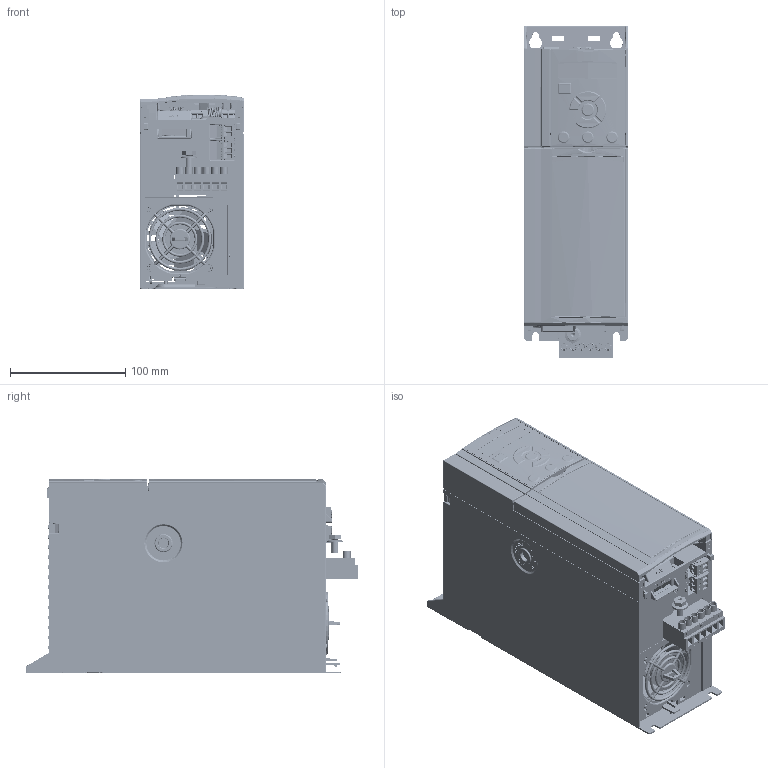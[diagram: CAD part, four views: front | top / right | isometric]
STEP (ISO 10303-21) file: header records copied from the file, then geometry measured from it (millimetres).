
FILE_DESCRIPTION((''),'2;1');
FILE_NAME('FC360_J2-IP20_ASM_ASM','2020-06-08T',('U381356'),('Danfoss Power Electronics'),'CREO PARAMETRIC BY PTC INC, 2018070','CREO PARAMETRIC BY PTC INC, 2018070','');
FILE_SCHEMA(('CONFIG_CONTROL_DESIGN','GEOMETRIC_VALIDATION_PROPERTIES_MIM'));
Products named in the file (69): MSBR-111_1_1; MSBR-110_1_1; MSBR-109_1_1; MSBR-108_1_1; MSBR-107_1_1; MSBR-106_1_1; MSBR-105_1_1; MSBR-104_1_1; MSBR-103_1_1; MSBR-102_1_1; MSBR-101_1_1; MSBR-100_1_1; MSBR-99_1_1; MSBR-97_1_1; MSBR-96_1_1; MSBR-95_1_1; MSBR-94_1_1; MSBR-93_1_1; MSBR-92_1_1; MSBR-91_1_1; MSBR-90_1_1; MSBR-89_1_1; MSBR-88_1_1; MSBR-87_1_1; MSBR-86_1_1; MSBR-85_1_1; MSBR-84_1_1; MSBR-82_1_1; MSBR-80_1_1; MSBR-76_1_1; MSBR-74_1_1; MSBR-59_1_1; MSBR-55_1_1; MSBR-54_1_1; MSBR-53_1_1; MSBR-52_1_1; MSBR-51_1_1; MSBR-50_1_1; MSBR-49_1_1; MSBR-48_1_1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
Assembly tree (68 placements, depth 3):
  FC360_J2-IP20_ASM_ASM
    ASM0001_ASM_1_ASM
      MSBR-111_1_1
      MSBR-110_1_1
      MSBR-109_1_1
      MSBR-108_1_1
      MSBR-107_1_1
      MSBR-106_1_1
      MSBR-105_1_1
      MSBR-104_1_1
      MSBR-103_1_1
      MSBR-102_1_1
      MSBR-101_1_1
      MSBR-100_1_1
      MSBR-99_1_1
      MSBR-97_1_1
      MSBR-96_1_1
      MSBR-95_1_1
      MSBR-94_1_1
      MSBR-93_1_1
      MSBR-92_1_1
      MSBR-91_1_1
      MSBR-90_1_1
      MSBR-89_1_1
      MSBR-88_1_1
      MSBR-87_1_1
      MSBR-86_1_1
      MSBR-85_1_1
      MSBR-84_1_1
      MSBR-82_1_1
      MSBR-80_1_1
      MSBR-76_1_1
      MSBR-74_1_1
      MSBR-59_1_1
      MSBR-55_1_1
      MSBR-54_1_1
      MSBR-53_1_1
      MSBR-52_1_1
      MSBR-51_1_1
      MSBR-50_1_1
      MSBR-49_1_1
      MSBR-48_1_1
      MSBR-47_1_1
      MSBR-46_1_1
      MSBR-45_1_1
      MSBR-44_1_1
      MSBR-43_1_1
      MSBR-42_1_1
      MSBR-41_1_1
      MSBR-40_1_1
      MSBR-39_1_1
      MSBR-38_1_1
      MSBR-37_1_1
      MSBR-36_1_1
      MSBR-35_1_1
      MSBR-34_1_1
      MSBR-33_1_1
      MSBR-32_1_1
      MSBR-31_1_1
      MSBR-24_1_1
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Bounding box: 90 x 287.6 x 168.6 mm (x, y, z)
Volume: 500755.5 mm3; surface area: 599943.2 mm2
Topology: 66 solids, 71 shells, 25475 faces, 70756 edges, 46040 vertices
Faces by surface type: plane 19023, cylinder 3921, cone 829, bspline 714, torus 626, sphere 241, extrusion 121
Entity records: 964251 total; most frequent: CARTESIAN_POINT 233576, ORIENTED_EDGE 141010, DIRECTION 119840, EDGE_CURVE 70518, VECTOR 49408, LINE 49287, VERTEX_POINT 46030, AXIS2_PLACEMENT_3D 35216
